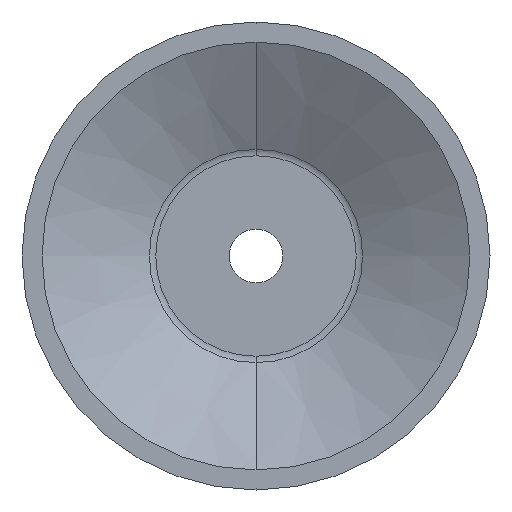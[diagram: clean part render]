
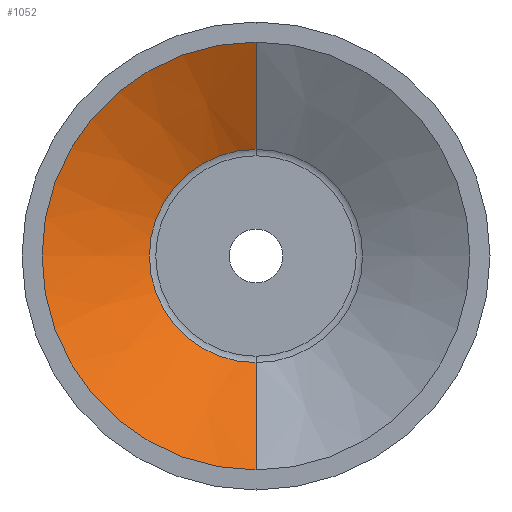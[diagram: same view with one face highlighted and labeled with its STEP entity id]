
A CAD part, front view. The second image highlights one B-rep face of the part: STEP entity #1052.
In plain terms, the highlighted conical face has half-angle 61.39 degrees and reference radius 16 mm.
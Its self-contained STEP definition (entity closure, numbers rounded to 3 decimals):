
#7 = DIRECTION ( 'NONE',  ( 0., -0.479, -0.878 ) ) ;
#12 = DIRECTION ( 'NONE',  ( 0., 0., 1. ) ) ;
#63 = EDGE_CURVE ( 'NONE', #739, #666, #699, .T. ) ;
#139 = ORIENTED_EDGE ( 'NONE', *, *, #162, .T. ) ;
#155 = CARTESIAN_POINT ( 'NONE',  ( 0., -14.5, 16. ) ) ;
#162 = EDGE_CURVE ( 'NONE', #1291, #739, #701, .T. ) ;
#182 = CARTESIAN_POINT ( 'NONE',  ( 0., -10.122, 7.974 ) ) ;
#186 = ORIENTED_EDGE ( 'NONE', *, *, #63, .T. ) ;
#270 = VECTOR ( 'NONE', #707, 1000. ) ;
#321 = CARTESIAN_POINT ( 'NONE',  ( 0., -14.5, 0. ) ) ;
#415 = DIRECTION ( 'NONE',  ( 0., 1., 0. ) ) ;
#418 = CARTESIAN_POINT ( 'NONE',  ( 0., -10.122, -7.974 ) ) ;
#436 = DIRECTION ( 'NONE',  ( 0., -1., 0. ) ) ;
#477 = CARTESIAN_POINT ( 'NONE',  ( 0., -14.5, 16. ) ) ;
#511 = LINE ( 'NONE', #735, #1012 ) ;
#554 = EDGE_CURVE ( 'NONE', #1291, #672, #511, .T. ) ;
#570 = EDGE_CURVE ( 'NONE', #672, #666, #732, .T. ) ;
#599 = AXIS2_PLACEMENT_3D ( 'NONE', #321, #415, #12 ) ;
#628 = FACE_OUTER_BOUND ( 'NONE', #921, .T. ) ;
#642 = ORIENTED_EDGE ( 'NONE', *, *, #554, .F. ) ;
#666 = VERTEX_POINT ( 'NONE', #155 ) ;
#672 = VERTEX_POINT ( 'NONE', #1151 ) ;
#699 = LINE ( 'NONE', #477, #270 ) ;
#701 = CIRCLE ( 'NONE', #943, 7.974 ) ;
#707 = DIRECTION ( 'NONE',  ( 0., -0.479, 0.878 ) ) ;
#715 = DIRECTION ( 'NONE',  ( 0., 0., -1. ) ) ;
#723 = DIRECTION ( 'NONE',  ( 0., 0., -1. ) ) ;
#732 = CIRCLE ( 'NONE', #599, 16. ) ;
#735 = CARTESIAN_POINT ( 'NONE',  ( 0., -14.5, -16. ) ) ;
#739 = VERTEX_POINT ( 'NONE', #182 ) ;
#843 = DIRECTION ( 'NONE',  ( 0., 1., 0. ) ) ;
#921 = EDGE_LOOP ( 'NONE', ( #139, #186, #1233, #642 ) ) ;
#936 = CONICAL_SURFACE ( 'NONE', #977, 16., 1.071 ) ;
#940 = CARTESIAN_POINT ( 'NONE',  ( 0., -14.5, 0. ) ) ;
#943 = AXIS2_PLACEMENT_3D ( 'NONE', #1209, #843, #715 ) ;
#977 = AXIS2_PLACEMENT_3D ( 'NONE', #940, #436, #723 ) ;
#1012 = VECTOR ( 'NONE', #7, 1000. ) ;
#1052 = ADVANCED_FACE ( 'NONE', ( #628 ), #936, .F. ) ;
#1151 = CARTESIAN_POINT ( 'NONE',  ( 0., -14.5, -16. ) ) ;
#1209 = CARTESIAN_POINT ( 'NONE',  ( 0., -10.122, 0. ) ) ;
#1233 = ORIENTED_EDGE ( 'NONE', *, *, #570, .F. ) ;
#1291 = VERTEX_POINT ( 'NONE', #418 ) ;
